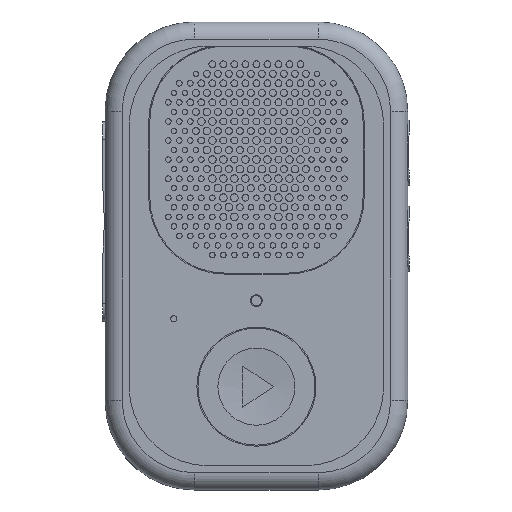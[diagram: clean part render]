
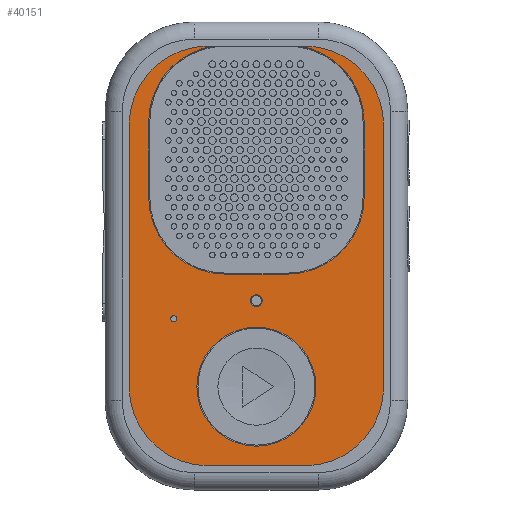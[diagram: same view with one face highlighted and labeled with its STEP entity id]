
A CAD part, top view. The second image highlights one B-rep face of the part: STEP entity #40151.
In plain terms, the highlighted planar face has unit normal (0, 0, 1).
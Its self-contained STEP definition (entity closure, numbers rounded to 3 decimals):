
#658=FACE_BOUND('',#6256,.T.);
#659=FACE_BOUND('',#6257,.T.);
#660=FACE_BOUND('',#6258,.T.);
#2334=CIRCLE('',#42737,2.3);
#2335=CIRCLE('',#42740,2.3);
#2336=CIRCLE('',#42743,2.23);
#2341=CIRCLE('',#42750,2.23);
#2343=CIRCLE('',#42754,2.3);
#2344=CIRCLE('',#42757,2.3);
#2401=CIRCLE('',#42876,2.23);
#2402=CIRCLE('',#42877,2.23);
#2403=CIRCLE('',#42878,1.73);
#2404=CIRCLE('',#42879,0.09);
#2405=CIRCLE('',#42880,0.17);
#4163=FACE_OUTER_BOUND('',#6255,.T.);
#6255=EDGE_LOOP('',(#27676,#27677,#27678,#27679,#27680,#27681,#27682,#27683,
#27684,#27685,#27686,#27687,#27688,#27689,#27690,#27691));
#6256=EDGE_LOOP('',(#27692));
#6257=EDGE_LOOP('',(#27693));
#6258=EDGE_LOOP('',(#27694));
#9144=LINE('',#59194,#13218);
#9148=LINE('',#59203,#13222);
#9157=LINE('',#59235,#13231);
#9159=LINE('',#59242,#13233);
#9162=LINE('',#59249,#13236);
#9306=LINE('',#59648,#13380);
#9307=LINE('',#59652,#13381);
#9308=LINE('',#59655,#13382);
#13218=VECTOR('',#47018,0.1);
#13222=VECTOR('',#47028,0.1);
#13231=VECTOR('',#47059,0.1);
#13233=VECTOR('',#47067,0.1);
#13236=VECTOR('',#47076,0.1);
#13380=VECTOR('',#47454,0.1);
#13381=VECTOR('',#47457,0.1);
#13382=VECTOR('',#47460,0.1);
#17321=VERTEX_POINT('',#59187);
#17322=VERTEX_POINT('',#59189);
#17323=VERTEX_POINT('',#59193);
#17324=VERTEX_POINT('',#59197);
#17325=VERTEX_POINT('',#59201);
#17326=VERTEX_POINT('',#59205);
#17335=VERTEX_POINT('',#59226);
#17336=VERTEX_POINT('',#59228);
#17337=VERTEX_POINT('',#59233);
#17338=VERTEX_POINT('',#59237);
#17339=VERTEX_POINT('',#59241);
#17340=VERTEX_POINT('',#59245);
#17478=VERTEX_POINT('',#59647);
#17479=VERTEX_POINT('',#59649);
#17480=VERTEX_POINT('',#59651);
#17481=VERTEX_POINT('',#59653);
#17482=VERTEX_POINT('',#59656);
#17483=VERTEX_POINT('',#59658);
#17484=VERTEX_POINT('',#59660);
#21273=EDGE_CURVE('',#17321,#17322,#2334,.T.);
#21274=EDGE_CURVE('',#17321,#17323,#9144,.T.);
#21276=EDGE_CURVE('',#17324,#17323,#2335,.T.);
#21279=EDGE_CURVE('',#17325,#17324,#9148,.T.);
#21280=EDGE_CURVE('',#17325,#17326,#2336,.T.);
#21291=EDGE_CURVE('',#17335,#17336,#2341,.T.);
#21295=EDGE_CURVE('',#17337,#17336,#9157,.T.);
#21297=EDGE_CURVE('',#17338,#17337,#2343,.T.);
#21298=EDGE_CURVE('',#17339,#17338,#9159,.T.);
#21300=EDGE_CURVE('',#17340,#17339,#2344,.T.);
#21302=EDGE_CURVE('',#17340,#17322,#9162,.T.);
#21502=EDGE_CURVE('',#17478,#17335,#9306,.T.);
#21503=EDGE_CURVE('',#17479,#17478,#2401,.T.);
#21504=EDGE_CURVE('',#17479,#17480,#9307,.T.);
#21505=EDGE_CURVE('',#17481,#17480,#2402,.T.);
#21506=EDGE_CURVE('',#17481,#17326,#9308,.T.);
#21507=EDGE_CURVE('',#17482,#17482,#2403,.T.);
#21508=EDGE_CURVE('',#17483,#17483,#2404,.T.);
#21509=EDGE_CURVE('',#17484,#17484,#2405,.T.);
#27676=ORIENTED_EDGE('',*,*,#21274,.F.);
#27677=ORIENTED_EDGE('',*,*,#21273,.T.);
#27678=ORIENTED_EDGE('',*,*,#21302,.F.);
#27679=ORIENTED_EDGE('',*,*,#21300,.T.);
#27680=ORIENTED_EDGE('',*,*,#21298,.T.);
#27681=ORIENTED_EDGE('',*,*,#21297,.T.);
#27682=ORIENTED_EDGE('',*,*,#21295,.T.);
#27683=ORIENTED_EDGE('',*,*,#21291,.F.);
#27684=ORIENTED_EDGE('',*,*,#21502,.F.);
#27685=ORIENTED_EDGE('',*,*,#21503,.F.);
#27686=ORIENTED_EDGE('',*,*,#21504,.T.);
#27687=ORIENTED_EDGE('',*,*,#21505,.F.);
#27688=ORIENTED_EDGE('',*,*,#21506,.T.);
#27689=ORIENTED_EDGE('',*,*,#21280,.F.);
#27690=ORIENTED_EDGE('',*,*,#21279,.T.);
#27691=ORIENTED_EDGE('',*,*,#21276,.T.);
#27692=ORIENTED_EDGE('',*,*,#21507,.T.);
#27693=ORIENTED_EDGE('',*,*,#21508,.F.);
#27694=ORIENTED_EDGE('',*,*,#21509,.F.);
#38871=PLANE('',#42875);
#40151=ADVANCED_FACE('',(#4163,#658,#659,#660),#38871,.T.);
#42737=AXIS2_PLACEMENT_3D('',#59191,#47014,#47015);
#42740=AXIS2_PLACEMENT_3D('',#59198,#47022,#47023);
#42743=AXIS2_PLACEMENT_3D('',#59206,#47031,#47032);
#42750=AXIS2_PLACEMENT_3D('',#59229,#47051,#47052);
#42754=AXIS2_PLACEMENT_3D('',#59239,#47063,#47064);
#42757=AXIS2_PLACEMENT_3D('',#59246,#47071,#47072);
#42875=AXIS2_PLACEMENT_3D('',#59646,#47452,#47453);
#42876=AXIS2_PLACEMENT_3D('',#59650,#47455,#47456);
#42877=AXIS2_PLACEMENT_3D('',#59654,#47458,#47459);
#42878=AXIS2_PLACEMENT_3D('',#59657,#47461,#47462);
#42879=AXIS2_PLACEMENT_3D('',#59659,#47463,#47464);
#42880=AXIS2_PLACEMENT_3D('',#59661,#47465,#47466);
#47014=DIRECTION('center_axis',(0.,0.,1.));
#47015=DIRECTION('ref_axis',(-1.,0.,0.));
#47018=DIRECTION('',(0.,1.,0.));
#47022=DIRECTION('center_axis',(0.,0.,1.));
#47023=DIRECTION('ref_axis',(-1.,0.,0.));
#47028=DIRECTION('',(-1.,0.,0.));
#47031=DIRECTION('center_axis',(0.,0.,1.));
#47032=DIRECTION('ref_axis',(-1.,0.,0.));
#47051=DIRECTION('center_axis',(0.,0.,1.));
#47052=DIRECTION('ref_axis',(1.,0.,0.));
#47059=DIRECTION('',(-1.,0.,0.));
#47063=DIRECTION('center_axis',(0.,0.,1.));
#47064=DIRECTION('ref_axis',(1.,0.,0.));
#47067=DIRECTION('',(0.,1.,0.));
#47071=DIRECTION('center_axis',(0.,0.,1.));
#47072=DIRECTION('ref_axis',(1.,0.,0.));
#47076=DIRECTION('',(-1.,0.,0.));
#47452=DIRECTION('center_axis',(0.,0.,1.));
#47453=DIRECTION('ref_axis',(1.,0.,0.));
#47454=DIRECTION('',(0.,1.,0.));
#47455=DIRECTION('center_axis',(0.,0.,1.));
#47456=DIRECTION('ref_axis',(1.,0.,0.));
#47457=DIRECTION('',(-1.,0.,0.));
#47458=DIRECTION('center_axis',(0.,0.,1.));
#47459=DIRECTION('ref_axis',(-1.,0.,0.));
#47460=DIRECTION('',(0.,1.,0.));
#47461=DIRECTION('center_axis',(0.,0.,-1.));
#47462=DIRECTION('ref_axis',(1.,0.,0.));
#47463=DIRECTION('center_axis',(0.,0.,1.));
#47464=DIRECTION('ref_axis',(1.,0.,0.));
#47465=DIRECTION('center_axis',(0.,0.,1.));
#47466=DIRECTION('ref_axis',(1.,0.,0.));
#59187=CARTESIAN_POINT('',(-3.7,-3.8,1.22));
#59189=CARTESIAN_POINT('',(-1.4,-6.1,1.22));
#59191=CARTESIAN_POINT('Origin',(-1.4,-3.8,1.22));
#59193=CARTESIAN_POINT('',(-3.7,3.8,1.22));
#59194=CARTESIAN_POINT('',(-3.7,-6.39,1.22));
#59197=CARTESIAN_POINT('',(-1.4,6.1,1.22));
#59198=CARTESIAN_POINT('Origin',(-1.4,3.8,1.22));
#59201=CARTESIAN_POINT('',(-1.265,6.1,1.22));
#59203=CARTESIAN_POINT('',(-3.99,6.1,1.22));
#59205=CARTESIAN_POINT('',(-3.13,3.9,1.22));
#59206=CARTESIAN_POINT('Origin',(-0.9,3.9,1.22));
#59226=CARTESIAN_POINT('',(3.13,3.9,1.22));
#59228=CARTESIAN_POINT('',(1.265,6.1,1.22));
#59229=CARTESIAN_POINT('Origin',(0.9,3.9,1.22));
#59233=CARTESIAN_POINT('',(1.4,6.1,1.22));
#59235=CARTESIAN_POINT('',(-3.99,6.1,1.22));
#59237=CARTESIAN_POINT('',(3.7,3.8,1.22));
#59239=CARTESIAN_POINT('Origin',(1.4,3.8,1.22));
#59241=CARTESIAN_POINT('',(3.7,-3.8,1.22));
#59242=CARTESIAN_POINT('',(3.7,-6.39,1.22));
#59245=CARTESIAN_POINT('',(1.4,-6.1,1.22));
#59246=CARTESIAN_POINT('Origin',(1.4,-3.8,1.22));
#59249=CARTESIAN_POINT('',(-3.99,-6.1,1.22));
#59646=CARTESIAN_POINT('Origin',(-4.28,-6.68,1.22));
#59647=CARTESIAN_POINT('',(3.13,1.7,1.22));
#59648=CARTESIAN_POINT('',(3.13,-3.605,1.22));
#59649=CARTESIAN_POINT('',(0.9,-0.53,1.22));
#59650=CARTESIAN_POINT('Origin',(0.9,1.7,1.22));
#59651=CARTESIAN_POINT('',(-0.9,-0.53,1.22));
#59652=CARTESIAN_POINT('',(-3.705,-0.53,1.22));
#59653=CARTESIAN_POINT('',(-3.13,1.7,1.22));
#59654=CARTESIAN_POINT('Origin',(-0.9,1.7,1.22));
#59655=CARTESIAN_POINT('',(-3.13,-3.605,1.22));
#59656=CARTESIAN_POINT('',(-1.73,-3.8,1.22));
#59657=CARTESIAN_POINT('Origin',(0.,-3.8,1.22));
#59658=CARTESIAN_POINT('',(-2.49,-1.825,1.22));
#59659=CARTESIAN_POINT('Origin',(-2.4,-1.825,1.22));
#59660=CARTESIAN_POINT('',(-0.17,-1.3,1.22));
#59661=CARTESIAN_POINT('Origin',(0.,-1.3,1.22));
